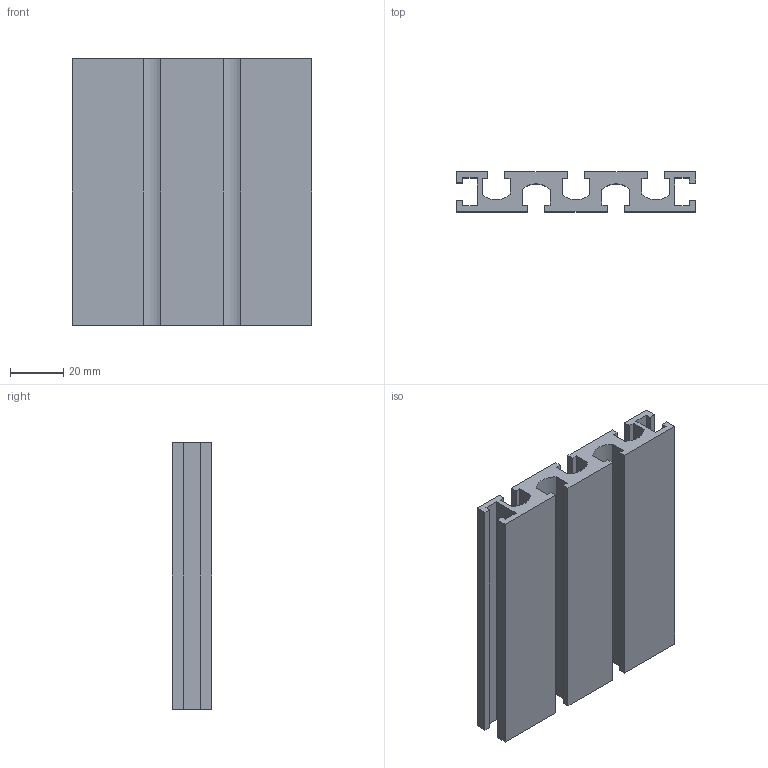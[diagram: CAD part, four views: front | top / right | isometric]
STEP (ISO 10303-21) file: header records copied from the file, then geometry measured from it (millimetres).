
FILE_DESCRIPTION (( 'STEP AP203' ), '1' );
FILE_NAME ('WS1590-6.STEP', '2024-02-17T06:32:39', ( '' ), ( '' ), 'SwSTEP 2.0', 'SolidWorks 2022', '' );
FILE_SCHEMA (( 'CONFIG_CONTROL_DESIGN' ));
Length unit declared in the file: millimetre
Products named in the file (1): WS1590-6
Bounding box: 90 x 15 x 100 mm (x, y, z)
Volume: 73532.3 mm3; surface area: 40152.2 mm2
Topology: 1 solids, 1 shells, 62 faces, 180 edges, 120 vertices
Faces by surface type: plane 57, cylinder 5
Entity records: 2091 total; most frequent: CARTESIAN_POINT 363, ORIENTED_EDGE 360, DIRECTION 316, EDGE_CURVE 180, LINE 170, VECTOR 170, VERTEX_POINT 120, AXIS2_PLACEMENT_3D 73
